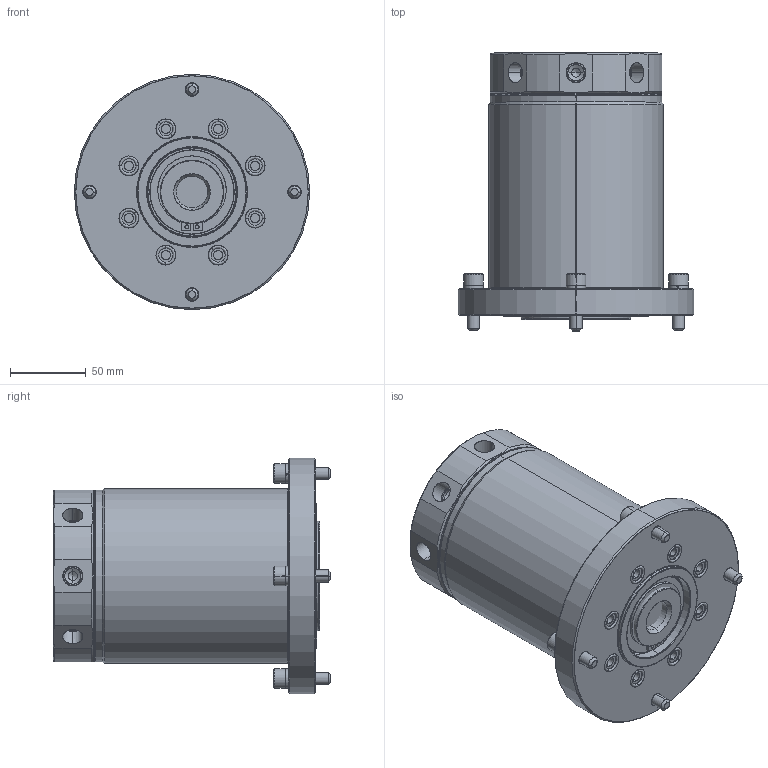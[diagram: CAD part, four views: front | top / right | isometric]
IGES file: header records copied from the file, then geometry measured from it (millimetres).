
Start section: SolidWorks IGES file using analytic representation for surfaces
Global section: file name: L:\電子カタログ-3D_CADデータ集\電子カタログ-3D_IGES\JRB_JRC\JRB0810-S-G-S.IGS; native system: SolidWorks 2010; preprocessor: SolidWorks 2010; author: D213; date: 110314.113831; units: millimetre
Bounding box: 155 x 183 x 155 mm (x, y, z)
Surface area: 181012.2 mm2 (no closed solid volume)
Topology: 0 solids, 0 shells, 520 faces, 7932 edges, 7892 vertices
Faces by surface type: revolution 336, bspline 184
